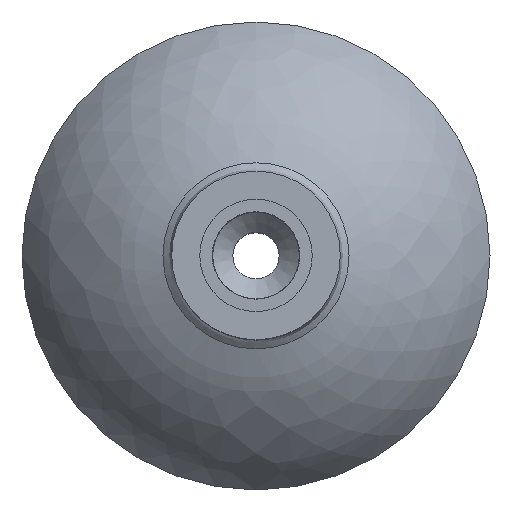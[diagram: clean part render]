
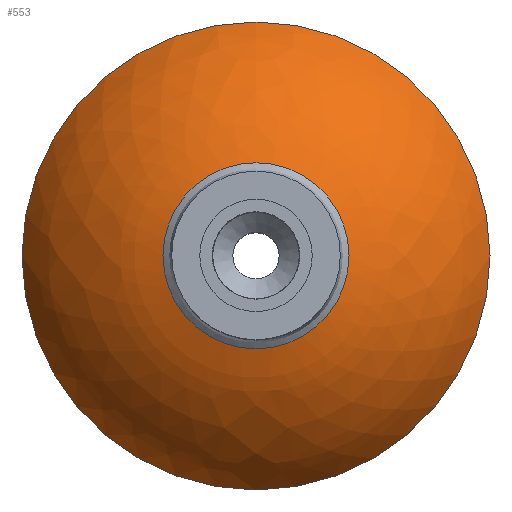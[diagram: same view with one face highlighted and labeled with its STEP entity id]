
A CAD part, top view. The second image highlights one B-rep face of the part: STEP entity #553.
In plain terms, the highlighted free-form (B-spline) face has degree [2, 2] with [3, 9] control points.
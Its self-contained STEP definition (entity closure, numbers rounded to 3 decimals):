
#489=CARTESIAN_POINT('',(8.418,14.396,0.0));
#490=VERTEX_POINT('',#489);
#491=CARTESIAN_POINT('',(8.418,2.15,0.0));
#492=DIRECTION('',(1.0,0.0,0.0));
#493=DIRECTION('',(0.0,1.0,0.0));
#494=AXIS2_PLACEMENT_3D('',#491,#492,#493);
#495=CIRCLE('',#494,12.246);
#496=EDGE_CURVE('',#490,#490,#495,.T.);
#504=CARTESIAN_POINT('',(8.418,2.15,12.246));
#505=CARTESIAN_POINT('',(12.68,2.15,24.616));
#506=CARTESIAN_POINT('',(24.211,2.15,30.8));
#507=CARTESIAN_POINT('',(8.418,14.396,12.246));
#508=CARTESIAN_POINT('',(12.68,26.766,24.616));
#509=CARTESIAN_POINT('',(24.211,32.95,30.8));
#510=CARTESIAN_POINT('',(8.418,14.396,0.));
#511=CARTESIAN_POINT('',(12.68,26.766,0.));
#512=CARTESIAN_POINT('',(24.211,32.95,0.));
#513=CARTESIAN_POINT('',(8.418,14.396,-12.246));
#514=CARTESIAN_POINT('',(12.68,26.766,-24.616));
#515=CARTESIAN_POINT('',(24.211,32.95,-30.8));
#516=CARTESIAN_POINT('',(8.418,2.15,-12.246));
#517=CARTESIAN_POINT('',(12.68,2.15,-24.616));
#518=CARTESIAN_POINT('',(24.211,2.15,-30.8));
#519=CARTESIAN_POINT('',(8.418,-10.096,-12.246));
#520=CARTESIAN_POINT('',(12.68,-22.466,-24.616));
#521=CARTESIAN_POINT('',(24.211,-28.65,-30.8));
#522=CARTESIAN_POINT('',(8.418,-10.096,0.));
#523=CARTESIAN_POINT('',(12.68,-22.466,0.));
#524=CARTESIAN_POINT('',(24.211,-28.65,0.));
#525=CARTESIAN_POINT('',(8.418,-10.096,12.246));
#526=CARTESIAN_POINT('',(12.68,-22.466,24.616));
#527=CARTESIAN_POINT('',(24.211,-28.65,30.8));
#528=CARTESIAN_POINT('',(8.418,2.15,12.246));
#529=CARTESIAN_POINT('',(12.68,2.15,24.616));
#530=CARTESIAN_POINT('',(24.211,2.15,30.8));
#538=(BOUNDED_SURFACE()B_SPLINE_SURFACE(2,2,((#504,#507,#510,#513,#516,#519,#522,#525,#528),(#505,#508,#511,#514,#517,#520,#523,#526,#529),(#506,#509,#512,#515,#518,#521,#524,#527,#530)),.UNSPECIFIED.,.F.,.T.,.U.)B_SPLINE_SURFACE_WITH_KNOTS((3,3),(3,2,2,2,3),(-1.239,-0.492),(0.0,1.571,3.142,4.712,6.283),.UNSPECIFIED.)GEOMETRIC_REPRESENTATION_ITEM()RATIONAL_B_SPLINE_SURFACE(((1.0,0.707,1.0,0.707,1.0,0.707,1.0,0.707,1.0),(0.931,0.658,0.931,0.658,0.931,0.658,0.931,0.658,0.931),(1.0,0.707,1.0,0.707,1.0,0.707,1.0,0.707,1.0)))REPRESENTATION_ITEM('')SURFACE());
#539=CARTESIAN_POINT('',(24.211,32.95,0.0));
#540=VERTEX_POINT('',#539);
#541=CARTESIAN_POINT('',(24.211,2.15,0.0));
#542=DIRECTION('',(1.0,0.0,0.0));
#543=DIRECTION('',(0.0,1.0,0.0));
#544=AXIS2_PLACEMENT_3D('',#541,#542,#543);
#545=CIRCLE('',#544,30.8);
#546=EDGE_CURVE('',#540,#540,#545,.T.);
#547=ORIENTED_EDGE('',*,*,#546,.F.);
#548=EDGE_LOOP('',(#547));
#549=FACE_OUTER_BOUND('',#548,.T.);
#550=ORIENTED_EDGE('',*,*,#496,.T.);
#551=EDGE_LOOP('',(#550));
#552=FACE_BOUND('',#551,.T.);
#553=ADVANCED_FACE('',(#549,#552),#538,.T.);
